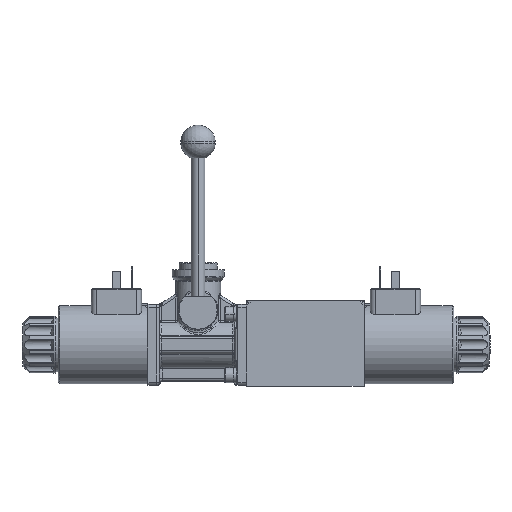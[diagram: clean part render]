
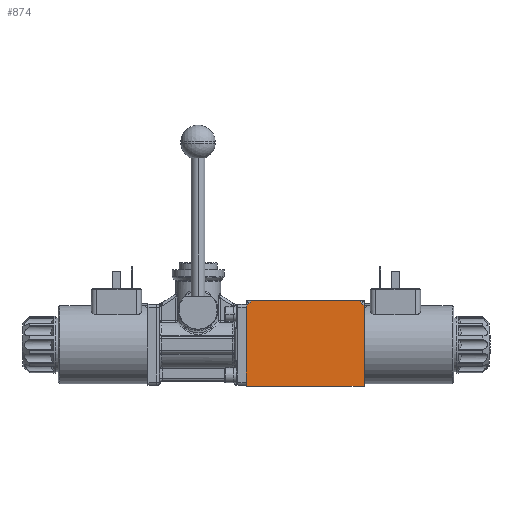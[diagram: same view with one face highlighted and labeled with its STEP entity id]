
A CAD part, top view. The second image highlights one B-rep face of the part: STEP entity #874.
In plain terms, the highlighted planar face has unit normal (0, 0.009, 1).
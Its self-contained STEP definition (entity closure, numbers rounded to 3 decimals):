
#325=DIRECTION('',(1.,0.,0.));
#326=VECTOR('',#325,61.91);
#327=CARTESIAN_POINT('',(-30.948,25.3,22.302));
#328=LINE('',#327,#326);
#332=CARTESIAN_POINT('',(32.561,24.031,22.313));
#333=CARTESIAN_POINT('',(32.067,24.501,22.309));
#334=CARTESIAN_POINT('',(31.531,24.927,22.306));
#335=CARTESIAN_POINT('',(30.963,25.3,22.302));
#340=CARTESIAN_POINT('',(32.561,24.031,22.313));
#341=CARTESIAN_POINT('',(33.097,23.48,22.318));
#342=CARTESIAN_POINT('',(33.581,22.876,22.323));
#343=CARTESIAN_POINT('',(34.,22.235,22.329));
#348=DIRECTION('',(0.,-1.,0.009));
#349=VECTOR('',#348,46.237);
#350=CARTESIAN_POINT('',(34.,22.235,22.329));
#351=LINE('',#350,#349);
#355=DIRECTION('',(-1.,0.,0.));
#356=VECTOR('',#355,68.);
#357=CARTESIAN_POINT('',(34.,-24.,22.733));
#358=LINE('',#357,#356);
#362=DIRECTION('',(0.,1.,-0.009));
#363=VECTOR('',#362,46.252);
#364=CARTESIAN_POINT('',(-34.,-24.,22.733));
#365=LINE('',#364,#363);
#369=CARTESIAN_POINT('',(-32.561,24.031,22.313));
#370=CARTESIAN_POINT('',(-33.098,23.486,22.318));
#371=CARTESIAN_POINT('',(-33.582,22.888,22.323));
#372=CARTESIAN_POINT('',(-34.,22.25,22.329));
#377=CARTESIAN_POINT('',(-32.561,24.031,22.313));
#378=CARTESIAN_POINT('',(-32.061,24.5,22.309));
#379=CARTESIAN_POINT('',(-31.52,24.926,22.306));
#380=CARTESIAN_POINT('',(-30.948,25.3,22.302));
#482=CARTESIAN_POINT('',(-30.948,25.3,22.302));
#483=CARTESIAN_POINT('',(30.963,25.3,22.302));
#484=VERTEX_POINT('',#482);
#485=VERTEX_POINT('',#483);
#486=CARTESIAN_POINT('',(34.,22.235,22.329));
#487=CARTESIAN_POINT('',(34.,-24.,22.733));
#488=VERTEX_POINT('',#486);
#489=VERTEX_POINT('',#487);
#490=CARTESIAN_POINT('',(-34.,-24.,22.733));
#491=VERTEX_POINT('',#490);
#492=CARTESIAN_POINT('',(-34.,22.25,22.329));
#493=VERTEX_POINT('',#492);
#518=VERTEX_POINT('',#340);
#521=VERTEX_POINT('',#377);
#856=CARTESIAN_POINT('',(-37.054,-26.,22.75));
#857=DIRECTION('',(0.,0.009,1.));
#858=DIRECTION('',(1.,0.,0.));
#859=AXIS2_PLACEMENT_3D('',#856,#857,#858);
#860=PLANE('',#859);
#861=ORIENTED_EDGE('',*,*,#574,.T.);
#863=ORIENTED_EDGE('',*,*,#862,.F.);
#865=ORIENTED_EDGE('',*,*,#864,.T.);
#866=ORIENTED_EDGE('',*,*,#679,.T.);
#867=ORIENTED_EDGE('',*,*,#699,.T.);
#868=ORIENTED_EDGE('',*,*,#720,.T.);
#870=ORIENTED_EDGE('',*,*,#869,.F.);
#871=ORIENTED_EDGE('',*,*,#850,.T.);
#872=EDGE_LOOP('',(#861,#863,#865,#866,#867,#868,#870,#871));
#873=FACE_OUTER_BOUND('',#872,.F.);
#336=B_SPLINE_CURVE_WITH_KNOTS('',3,(#332,#333,#334,#335),.UNSPECIFIED.,.F.,.F.,
(4,4),(0.,1.),.UNSPECIFIED.);
#344=B_SPLINE_CURVE_WITH_KNOTS('',3,(#340,#341,#342,#343),.UNSPECIFIED.,.F.,.F.,
(4,4),(0.,1.),.UNSPECIFIED.);
#373=B_SPLINE_CURVE_WITH_KNOTS('',3,(#369,#370,#371,#372),.UNSPECIFIED.,.F.,.F.,
(4,4),(0.,1.),.UNSPECIFIED.);
#381=B_SPLINE_CURVE_WITH_KNOTS('',3,(#377,#378,#379,#380),.UNSPECIFIED.,.F.,.F.,
(4,4),(0.,1.),.UNSPECIFIED.);
#574=EDGE_CURVE('',#484,#485,#328,.T.);
#679=EDGE_CURVE('',#488,#489,#351,.T.);
#699=EDGE_CURVE('',#489,#491,#358,.T.);
#720=EDGE_CURVE('',#491,#493,#365,.T.);
#850=EDGE_CURVE('',#521,#484,#381,.T.);
#862=EDGE_CURVE('',#518,#485,#336,.T.);
#864=EDGE_CURVE('',#518,#488,#344,.T.);
#869=EDGE_CURVE('',#521,#493,#373,.T.);
#874=ADVANCED_FACE('',(#873),#860,.T.);
